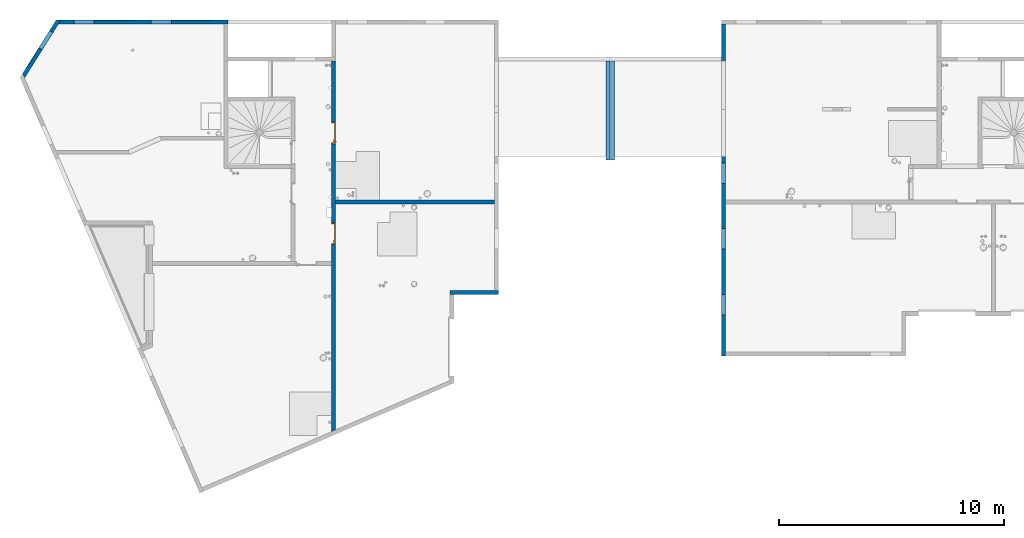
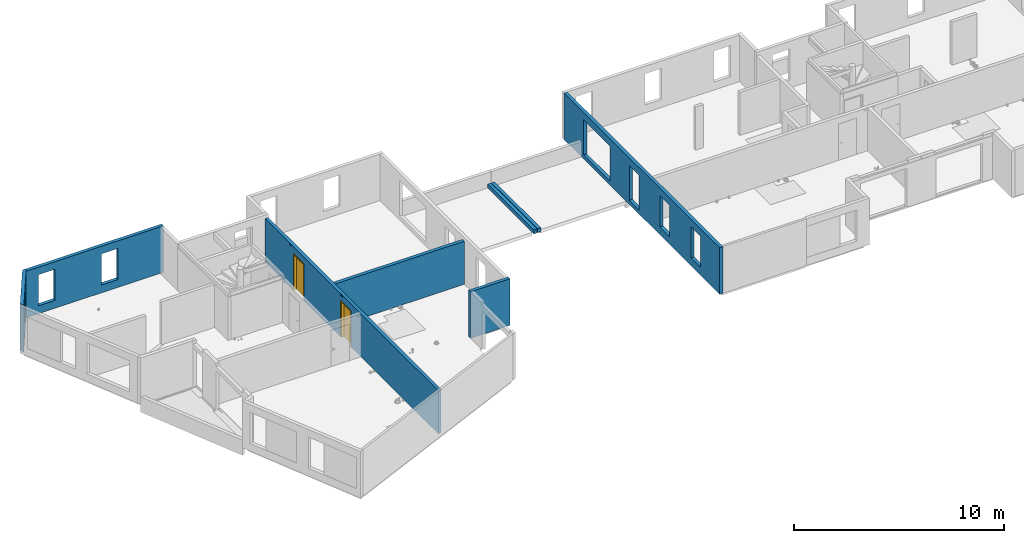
# One storey, part 5 of 24: 8 walls, 2 doors, 14 openings.
"""IFC2X3 building model written with IfcOpenShell, lengths in centimetres."""

from ifc_helpers import new_model, entity, si_unit, converted_unit, derived_unit, direction, frame, frame_2d, origin, origin_2d_with_axis, place, context, subcontext, project, spatial, polyline, rectangle, outline, extrude, faceted_brep, source, transform, mapped, material, material_list, layer, layer_set, layer_usage, type_object, type_shapes, element, fill, save


model = new_model("IFC2X3")

# Units and contexts
model_context = context("Model", 3, precision=0.001, world=origin(), true_north=direction((6.12303176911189e-17, 1.0)))
body_context = subcontext(model_context, "Body", "Model", "MODEL_VIEW")
ifc_project = project(units=[si_unit("LENGTHUNIT", "METRE", prefix="CENTI"), si_unit("AREAUNIT", "SQUARE_METRE"), si_unit("VOLUMEUNIT", "CUBIC_METRE"), converted_unit("PLANEANGLEUNIT", "DEGREE", entity("IfcRatioMeasure", 0.0174532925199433), si_unit("PLANEANGLEUNIT", "RADIAN"), dimensions=[0, 0, 0, 0, 0, 0, 0]), si_unit("MASSUNIT", "GRAM", prefix="KILO"), derived_unit("MASSDENSITYUNIT", [(si_unit("MASSUNIT", "GRAM", prefix="KILO"), 1), (si_unit("LENGTHUNIT", "METRE"), -3)]), si_unit("TIMEUNIT", "SECOND"), si_unit("FREQUENCYUNIT", "HERTZ"), si_unit("THERMODYNAMICTEMPERATUREUNIT", "DEGREE_CELSIUS"), derived_unit("THERMALTRANSMITTANCEUNIT", [(si_unit("MASSUNIT", "GRAM", prefix="KILO"), 1), (si_unit("THERMODYNAMICTEMPERATUREUNIT", "KELVIN"), -1), (si_unit("TIMEUNIT", "SECOND"), -3)]), derived_unit("VOLUMETRICFLOWRATEUNIT", [(si_unit("LENGTHUNIT", "METRE"), 3), (si_unit("TIMEUNIT", "SECOND"), -1)]), si_unit("ELECTRICCURRENTUNIT", "AMPERE"), si_unit("ELECTRICVOLTAGEUNIT", "VOLT"), si_unit("POWERUNIT", "WATT"), si_unit("FORCEUNIT", "NEWTON"), si_unit("ILLUMINANCEUNIT", "LUX"), si_unit("LUMINOUSFLUXUNIT", "LUMEN"), si_unit("LUMINOUSINTENSITYUNIT", "CANDELA"), derived_unit("USERDEFINED", [(si_unit("MASSUNIT", "GRAM", prefix="KILO"), -1), (si_unit("LENGTHUNIT", "METRE"), -2), (si_unit("TIMEUNIT", "SECOND"), 3), (si_unit("LUMINOUSFLUXUNIT", "LUMEN"), 1)]), derived_unit("LINEARVELOCITYUNIT", [(si_unit("LENGTHUNIT", "METRE"), 1), (si_unit("TIMEUNIT", "SECOND"), -1)]), si_unit("PRESSUREUNIT", "PASCAL"), derived_unit("USERDEFINED", [(si_unit("LENGTHUNIT", "METRE"), -2), (si_unit("MASSUNIT", "GRAM", prefix="KILO"), 1), (si_unit("TIMEUNIT", "SECOND"), -2)])], contexts=[model_context])

# Site, building, storey
site_placement = place(None, origin())
site = spatial("IfcSite", under=ifc_project, at=site_placement, Name="Default", CompositionType="ELEMENT")
building_placement = place(site_placement, origin())
building = spatial("IfcBuilding", under=site, at=building_placement, Name="CAGE 03", CompositionType="ELEMENT")
storey_placement = place(building_placement, frame((0.0, 0.0, 880.0)))
storey = spatial("IfcBuildingStorey", under=building, at=storey_placement, Name="R+3", CompositionType="ELEMENT", Elevation=880.0)

# Wall, openings
ifc_material_1 = material(Name="Béton, C25/30")
ifc_layer = layer(ifc_material_1, 18.0)
ifc_layer_set = layer_set([ifc_layer], Name="Mur de base:Voile BA 18")
ifc_layer_usage_1 = layer_usage(ifc_layer_set, "AXIS2", "NEGATIVE", 9.0)
wall_type = type_object("IfcWallType", Name="Mur de base:Voile BA 18", PredefinedType="STANDARD", material=ifc_layer_set)
wall_1_placement = place(storey_placement, frame((2759.68470555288, 5040.14221656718, 0.0), z_axis=(0.0, 0.0, 1.0), x_axis=(0.53179185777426, 0.846875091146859, 0.0)))
wall_1 = element("IfcWallStandardCase", 1, at=wall_1_placement, inside=storey, type_object=wall_type, material=ifc_layer_usage_1, Name="Mur de base:Voile BA 18", ObjectType="Mur de base:Voile BA 18", context=body_context, shape_type="SweptSolid", body=[
    extrude(outline(polyline([(305.009060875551, -9.0), (293.706032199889, 9.0), (12.3599581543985, 9.0), (0.0, -9.0), (283.754450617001, -9.0), (305.009060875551, -9.0)])), origin(), (0.0, 0.0, 1.0), 270.0),
])
opening_1_placement = place(wall_1_placement, origin())
element("IfcOpeningElement", 2, at=opening_1_placement, cuts=wall_1, Name="Mur de base:Voile BA 18", ObjectType="Recess", context=body_context, shape_type="SweptSolid", body=[
    extrude(rectangle(XDim=181.0, YDim=102.0, at=frame_2d((-5.6843418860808e-14, -3.62376795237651e-13), x_axis=(1.0, 0.0))), frame((96.6154798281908, 7.0, 135.499999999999), z_axis=(0.0, 1.0, 0.0), x_axis=(0.0, 0.0, -1.0)), (0.0, 0.0, 1.0), 1.99999999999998),
])
opening_2_placement = place(wall_1_placement, frame((-5735.94875548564, -343.198356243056, 0.0), z_axis=(0.0, 0.0, 1.0), x_axis=(0.53179185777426, -0.846875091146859, 0.0)))
element("IfcOpeningElement", 3, at=opening_2_placement, cuts=wall_1, Name="Mur de base:Voile BA 18", ObjectType="Opening", context=body_context, shape_type="SweptSolid", body=[
    extrude(rectangle(XDim=181.0, YDim=91.0, at=frame_2d((-5.6843418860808e-14, -4.83169060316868e-13), x_axis=(1.0, 0.0))), frame((2983.82383340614, 5127.42795374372, 135.5), z_axis=(-0.846875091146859, 0.53179185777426, 0.0), x_axis=(0.0, 0.0, 1.0)), (0.0, 0.0, 1.0), 304.8),
])

ifc_layer_usage_2 = layer_usage(ifc_layer_set, "AXIS2", "NEGATIVE", 9.0)
wall_2_placement = place(storey_placement, frame((2918.20488781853, 5284.66066607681, 0.0)))
wall_2 = element("IfcWallStandardCase", 4, at=wall_2_placement, inside=storey, type_object=wall_type, material=ifc_layer_usage_2, Name="Mur de base:Voile BA 18", ObjectType="Mur de base:Voile BA 18", context=body_context, shape_type="SweptSolid", body=[
    extrude(outline(polyline([(754.160932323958, -9.0), (754.160932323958, 9.0), (11.3030286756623, 9.0), (0.0, -9.0), (736.160932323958, -9.0), (754.160932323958, -9.0)])), origin(), (0.0, 0.0, 1.0), 270.0),
])
opening_3_placement = place(wall_2_placement, origin())
element("IfcOpeningElement", 5, at=opening_3_placement, cuts=wall_2, Name="Mur de base:Voile BA 18", ObjectType="Recess", context=body_context, shape_type="SweptSolid", body=[
    extrude(rectangle(XDim=181.0, YDim=184.0, at=frame_2d((-5.6843418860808e-14, 0.0), x_axis=(1.0, 0.0))), frame((251.160932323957, 7.0, 135.499999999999), z_axis=(0.0, 1.0, 0.0), x_axis=(0.0, 0.0, -1.0)), (0.0, 0.0, 1.0), 1.99999999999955),
])
opening_4_placement = place(wall_2_placement, origin())
element("IfcOpeningElement", 6, at=opening_4_placement, cuts=wall_2, Name="Mur de base:Voile BA 18", ObjectType="Recess", context=body_context, shape_type="SweptSolid", body=[
    extrude(rectangle(XDim=181.0, YDim=184.0, at=frame_2d((-5.6843418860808e-14, 0.0), x_axis=(1.0, 0.0))), frame((596.160932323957, 7.0, 135.5), z_axis=(0.0, 1.0, 0.0), x_axis=(0.0, 0.0, -1.0)), (0.0, 0.0, 1.0), 1.99999999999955),
])
opening_5_placement = place(wall_2_placement, frame((-2918.20488781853, -5284.66066607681, 0.0)))
element("IfcOpeningElement", 7, at=opening_5_placement, cuts=wall_2, Name="Mur de base:Voile BA 18", ObjectType="Opening", context=body_context, shape_type="SweptSolid", body=[
    extrude(rectangle(XDim=181.0, YDim=91.0000000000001, at=origin_2d_with_axis()), frame((3031.86582014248, 5123.26066607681, 135.5), z_axis=(0.0, 1.0, 0.0), x_axis=(0.0, 0.0, 1.0)), (0.0, 0.0, 1.0), 304.8),
])
opening_6_placement = place(wall_2_placement, frame((-2918.20488781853, -5284.66066607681, 0.0)))
element("IfcOpeningElement", 8, at=opening_6_placement, cuts=wall_2, Name="Mur de base:Voile BA 18", ObjectType="Opening", context=body_context, shape_type="SweptSolid", body=[
    extrude(rectangle(XDim=181.0, YDim=91.0000000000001, at=origin_2d_with_axis()), frame((3376.86582014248, 5123.26066607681, 135.5), z_axis=(0.0, 1.0, 0.0), x_axis=(0.0, 0.0, 1.0)), (0.0, 0.0, 1.0), 304.8),
])

# Wall
ifc_layer_usage_3 = layer_usage(ifc_layer_set, "AXIS2", "POSITIVE", -9.0)
wall_3_placement = place(storey_placement, frame((4662.36582014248, 4081.16066607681, 0.0)))
element("IfcWallStandardCase", 9, at=wall_3_placement, inside=storey, type_object=wall_type, material=ifc_layer_usage_3, Name="Mur de base:Voile BA 18", ObjectType="Mur de base:Voile BA 18", context=body_context, shape_type="SweptSolid", body=[
    extrude(rectangle(XDim=216.0, YDim=17.9999999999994, at=frame_2d((108.0, -7.63833440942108e-14), x_axis=(-1.0, 0.0))), origin(), (0.0, 0.0, 1.0), 270.0),
])

# Wall, openings
ifc_layer_usage_4 = layer_usage(ifc_layer_set, "AXIS2", "POSITIVE", -9.0)
wall_4_placement = place(storey_placement, frame((5879.36582014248, 5275.6606660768, 0.0), z_axis=(0.0, 0.0, 1.0), x_axis=(0.0, -1.0, 0.0)))
wall_4 = element("IfcWallStandardCase", 10, at=wall_4_placement, inside=storey, type_object=wall_type, material=ifc_layer_usage_4, Name="Mur de base:Voile BA 18", ObjectType="Mur de base:Voile BA 18", context=body_context, shape_type="SweptSolid", body=[
    extrude(rectangle(XDim=1479.0, YDim=17.9999999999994, at=frame_2d((739.499999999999, 2.36255459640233e-13), x_axis=(-1.0, 0.0))), origin(), (0.0, 0.0, 1.0), 270.0),
])
opening_7_placement = place(wall_4_placement, frame((5275.6606660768, -5879.36582014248, 0.0), z_axis=(0.0, 0.0, 1.0), x_axis=(0.0, 1.0, 0.0)))
element("IfcOpeningElement", 11, at=opening_7_placement, cuts=wall_4, Name="Mur de base:Voile BA 18", ObjectType="Opening", context=body_context, shape_type="SweptSolid", body=[
    extrude(rectangle(XDim=203.0, YDim=251.0, at=frame_2d((0.0, -1.06581410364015e-13), x_axis=(0.0, 1.0))), frame((5735.96582014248, 4966.1606660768, 124.5), z_axis=(1.0, 0.0, 0.0), x_axis=(0.0, 1.0, 0.0)), (0.0, 0.0, 1.0), 304.8),
])
opening_8_placement = place(wall_4_placement, frame((5275.6606660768, -5879.36582014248, 0.0), z_axis=(0.0, 0.0, 1.0), x_axis=(0.0, 1.0, 0.0)))
element("IfcOpeningElement", 12, at=opening_8_placement, cuts=wall_4, Name="Mur de base:Voile BA 18", ObjectType="Opening", context=body_context, shape_type="SweptSolid", body=[
    extrude(rectangle(XDim=203.0, YDim=91.0000000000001, at=frame_2d((0.0, -1.06581410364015e-13), x_axis=(0.0, 1.0))), frame((5735.96582014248, 4611.1606660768, 124.5), z_axis=(1.0, 0.0, 0.0), x_axis=(0.0, 1.0, 0.0)), (0.0, 0.0, 1.0), 304.8),
])
opening_9_placement = place(wall_4_placement, frame((5275.6606660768, -5879.36582014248, 0.0), z_axis=(0.0, 0.0, 1.0), x_axis=(0.0, 1.0, 0.0)))
element("IfcOpeningElement", 13, at=opening_9_placement, cuts=wall_4, Name="Mur de base:Voile BA 18", ObjectType="Opening", context=body_context, shape_type="SweptSolid", body=[
    extrude(rectangle(XDim=181.0, YDim=91.0000000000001, at=frame_2d((0.0, 1.63424829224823e-13), x_axis=(0.0, 1.0))), frame((5735.96582014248, 4025.16066607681, 135.5), z_axis=(1.0, 0.0, 0.0), x_axis=(0.0, 1.0, 0.0)), (0.0, 0.0, 1.0), 304.8),
])
opening_10_placement = place(wall_4_placement, frame((5275.6606660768, -5879.36582014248, 0.0), z_axis=(0.0, 0.0, 1.0), x_axis=(0.0, 1.0, 0.0)))
element("IfcOpeningElement", 14, at=opening_10_placement, cuts=wall_4, Name="Mur de base:Voile BA 18", ObjectType="Opening", context=body_context, shape_type="SweptSolid", body=[
    extrude(rectangle(XDim=181.0, YDim=91.0000000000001, at=frame_2d((0.0, 1.63424829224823e-13), x_axis=(0.0, 1.0))), frame((5735.96582014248, 4320.1606660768, 135.5), z_axis=(1.0, 0.0, 0.0), x_axis=(0.0, 1.0, 0.0)), (0.0, 0.0, 1.0), 304.8),
])

# Wall
ifc_layer_usage_5 = layer_usage(ifc_layer_set, "AXIS2", "NEGATIVE", 9.0)
wall_5_placement = place(storey_placement, frame((4152.36582014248, 4483.66066607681, 0.0)))
element("IfcWallStandardCase", 15, at=wall_5_placement, inside=storey, type_object=wall_type, material=ifc_layer_usage_5, Name="Mur de base:Voile BA 18", ObjectType="Mur de base:Voile BA 18", context=body_context, shape_type="SweptSolid", body=[
    extrude(rectangle(XDim=708.000000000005, YDim=17.9999999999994, at=frame_2d((354.000000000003, 2.16715534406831e-13), x_axis=(-1.0, 0.0))), origin(), (0.0, 0.0, 1.0), 250.0),
])

# Wall, openings, doors
ifc_layer_usage_6 = layer_usage(ifc_layer_set, "AXIS2", "POSITIVE", -9.0)
wall_6_placement = place(storey_placement, frame((4143.36582014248, 5110.66066607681, 0.0), z_axis=(0.0, 0.0, 1.0), x_axis=(0.0, -1.0, 0.0)))
wall_6 = element("IfcWallStandardCase", 16, at=wall_6_placement, inside=storey, type_object=wall_type, material=ifc_layer_usage_6, Name="Mur de base:Voile BA 18", ObjectType="Mur de base:Voile BA 18", context=body_context, shape_type="SweptSolid", body=[
    extrude(outline(polyline([(0.0, -9.0), (654.499999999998, -9.0), (694.499999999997, -9.0), (892.499999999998, -9.0), (910.499999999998, -9.0), (1649.885805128, -9.0), (1642.09747984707, 9.0), (636.0, 9.0), (618.0, 9.0), (0.0, 9.0), (0.0, -9.0)])), origin(), (0.0, 0.0, 1.0), 250.0),
])
opening_11_placement = place(wall_6_placement, origin())
element("IfcOpeningElement", 17, at=opening_11_placement, cuts=wall_6, Name="Mur de base:Voile BA 18", ObjectType="Opening", context=body_context, shape_type="SweptSolid", body=[
    extrude(rectangle(XDim=10.0000000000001, YDim=19.9999999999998, at=frame_2d((-4.33431068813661e-13, 1.08357767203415e-13), x_axis=(0.0, 1.0))), frame((728.0, -9.0, 242.5), z_axis=(0.0, 1.0, 0.0), x_axis=(1.0, 0.0, 0.0)), (0.0, 0.0, 1.0), 17.9999999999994),
])
opening_12_placement = place(wall_6_placement, origin())
element("IfcOpeningElement", 18, at=opening_12_placement, cuts=wall_6, Name="Mur de base:Voile BA 18", ObjectType="Opening", context=body_context, shape_type="SweptSolid", body=[
    extrude(rectangle(XDim=10.0000000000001, YDim=19.9999999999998, at=frame_2d((-4.33431068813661e-13, 1.08357767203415e-13), x_axis=(0.0, 1.0))), frame((240.0, -9.0, 242.5), z_axis=(0.0, 1.0, 0.0), x_axis=(1.0, 0.0, 0.0)), (0.0, 0.0, 1.0), 17.9999999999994),
])
opening_13_placement = place(wall_6_placement, frame((720.0, -9.0, 0.0)))
opening_13 = element("IfcOpeningElement", 19, at=opening_13_placement, cuts=wall_6, Name="Int. Simple:HB93:1", ObjectType="Opening", context=body_context, shape_type="SweptSolid", body=[
    extrude(rectangle(XDim=210.000000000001, YDim=96.9999999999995, at=frame_2d((105.000000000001, 48.4999999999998), x_axis=(1.0, 0.0))), frame((0.0, 0.0, 0.0), z_axis=(0.0, 1.0, 0.0), x_axis=(0.0, 0.0, 1.0)), (0.0, 0.0, 1.0), 18.0),
])
opening_14_placement = place(wall_6_placement, frame((271.500000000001, -9.0, 0.0)))
opening_14 = element("IfcOpeningElement", 20, at=opening_14_placement, cuts=wall_6, Name="Int. Simple:HB93:1", ObjectType="Opening", context=body_context, shape_type="SweptSolid", body=[
    extrude(rectangle(XDim=210.000000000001, YDim=96.9999999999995, at=frame_2d((105.000000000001, 48.4999999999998), x_axis=(1.0, 0.0))), frame((0.0, 0.0, 0.0), z_axis=(0.0, 1.0, 0.0), x_axis=(0.0, 0.0, 1.0)), (0.0, 0.0, 1.0), 18.0),
])
ifc_material_2 = material(Name="Finition Peinture - Blanc satiné")
ifc_material_3 = material(Name="Bois - Panneau de porte")
ifc_material_4 = material(Name="Bois - Cadre de porte")
ifc_material_list_1 = material_list([ifc_material_2, ifc_material_3, ifc_material_4])
ifc_material_list_2 = material_list([ifc_material_2, ifc_material_3, ifc_material_4])
door_style = type_object("IfcDoorStyle", Name="HB93", ConstructionType="NOTDEFINED", OperationType="SINGLE_SWING_LEFT", ParameterTakesPrecedence=False, Sizeable=False, material=ifc_material_list_2)
shared_shape = source(origin(), body_context, "Body", "Brep", [
    faceted_brep([(10.5352761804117, -0.500000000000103, 86.6003983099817), (11.5000000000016, -0.500000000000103, 87.0), (11.5000000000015, -0.500000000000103, 108.0), (10.5352761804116, -0.500000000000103, 108.399601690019), (9.50000000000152, -0.500000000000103, 108.535898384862), (8.46472381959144, -0.500000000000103, 108.399601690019), (7.50000000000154, -0.500000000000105, 108.0), (7.50000000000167, -0.500000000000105, 87.0), (8.46472381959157, -0.500000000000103, 86.6003983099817), (9.50000000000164, -0.500000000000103, 86.464101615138), (10.5352761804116, 0.0, 108.399601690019), (11.5000000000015, 0.0, 108.0), (11.5000000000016, 0.0, 87.0), (10.5352761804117, 0.0, 86.6003983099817), (9.50000000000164, 0.0, 86.464101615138), (8.46472381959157, 0.0, 86.6003983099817), (7.50000000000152, 0.0, 87.0), (7.50000000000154, 0.0, 108.0), (8.46472381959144, 0.0, 108.399601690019), (9.50000000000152, 0.0, 108.535898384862)], [[[0, 1, 2, 3, 4, 5, 6, 7, 8, 9]], [[10, 11, 12, 13, 14, 15, 16, 17, 18, 19]], [[16, 15, 8, 7]], [[8, 15, 14, 9]], [[14, 13, 0, 9]], [[13, 12, 1, 0]], [[2, 1, 12, 11]], [[11, 10, 3, 2]], [[3, 10, 19, 4]], [[19, 18, 5, 4]], [[18, 17, 6, 5]], [[7, 6, 17, 16]]]),
    faceted_brep([(10.5352761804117, 4.0, 86.6003983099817), (11.5000000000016, 4.0, 87.0), (11.5000000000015, 4.0, 108.0), (10.5352761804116, 4.0, 108.399601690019), (9.50000000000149, 4.0, 108.535898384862), (8.46472381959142, 4.0, 108.399601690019), (7.50000000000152, 4.0, 108.0), (7.50000000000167, 4.0, 87.0), (8.46472381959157, 4.0, 86.6003983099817), (9.50000000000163, 4.0, 86.464101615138), (10.5352761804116, 4.49999999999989, 108.399601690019), (11.5000000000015, 4.4999999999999, 108.0), (11.5000000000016, 4.4999999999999, 87.0), (10.5352761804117, 4.49999999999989, 86.6003983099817), (9.50000000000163, 4.49999999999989, 86.464101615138), (8.46472381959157, 4.49999999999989, 86.6003983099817), (7.50000000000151, 4.49999999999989, 87.0), (7.50000000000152, 4.49999999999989, 108.0), (8.46472381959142, 4.49999999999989, 108.399601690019), (9.50000000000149, 4.49999999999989, 108.535898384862)], [[[0, 1, 2, 3, 4, 5, 6, 7, 8, 9]], [[10, 11, 12, 13, 14, 15, 16, 17, 18, 19]], [[11, 10, 3, 2]], [[3, 10, 19, 4]], [[19, 18, 5, 4]], [[18, 17, 6, 5]], [[7, 6, 17, 16]], [[16, 15, 8, 7]], [[8, 15, 14, 9]], [[14, 13, 0, 9]], [[13, 12, 1, 0]], [[2, 1, 12, 11]]]),
    faceted_brep([(9.29747013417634, -0.500000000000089, 100.778044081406), (9.70252986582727, -0.500000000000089, 100.778044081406), (10.1000000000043, -0.500000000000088, 100.699999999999), (10.1000000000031, -0.500000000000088, 99.3000000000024), (9.70252986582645, -0.500000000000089, 99.2219559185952), (9.29747013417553, -0.500000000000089, 99.221955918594), (8.89999999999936, -0.500000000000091, 99.2999999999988), (8.89999999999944, -0.500000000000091, 100.7), (8.89999999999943, -3.26509507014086, 100.7), (9.29747013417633, -3.10045754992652, 100.778044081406), (10.9023585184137, -4.70534593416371, 100.778044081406), (11.0701397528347, -4.30028620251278, 100.778044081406), (9.70252986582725, -2.93267631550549, 100.778044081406), (10.1000000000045, -2.76803879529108, 100.7), (10.1000000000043, -2.76803879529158, 99.3000000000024), (9.70252986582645, -2.93267631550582, 99.2219559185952), (11.0701397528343, -4.30028620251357, 99.2219559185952), (10.9023585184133, -4.70534593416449, 99.221955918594), (9.29747013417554, -3.10045754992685, 99.221955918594), (8.89999999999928, -3.26509507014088, 99.2999999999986), (10.7377209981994, -5.1028160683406, 100.7), (11.2347772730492, -3.90281606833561, 100.7), (11.2347772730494, -3.90281606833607, 99.3000000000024), (10.7377209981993, -5.10281606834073, 99.2999999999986), (19.5018640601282, -5.1028160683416, 99.2999999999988), (19.5018640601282, -4.70534593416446, 99.221955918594), (19.5018640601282, -4.30028620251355, 99.2219559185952), (19.5018640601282, -3.90281606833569, 99.3000000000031), (19.5018640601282, -3.90281606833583, 100.7), (19.5018640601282, -4.30028620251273, 100.778044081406), (19.5018640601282, -4.70534593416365, 100.778044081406), (19.5018640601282, -5.10281606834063, 100.699999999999), (14.7307697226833, -5.10281606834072, 100.7), (15.28600190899, -4.5028160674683, 100.78786867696), (15.3683206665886, -3.9028160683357, 100.7), (15.3683206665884, -3.90281606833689, 99.3000000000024), (15.2860018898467, -4.50281607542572, 99.2121313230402), (14.7307700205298, -5.10281606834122, 99.2999999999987)], [[[0, 1, 2, 3, 4, 5, 6, 7]], [[8, 9, 0, 7]], [[9, 10, 11, 12, 1, 0]], [[12, 13, 2, 1]], [[3, 2, 13, 14]], [[14, 15, 4, 3]], [[15, 16, 17, 18, 5, 4]], [[18, 19, 6, 5]], [[7, 6, 19, 8]], [[20, 10, 9, 8]], [[11, 21, 13, 12]], [[14, 13, 21, 22]], [[22, 16, 15, 14]], [[17, 23, 19, 18]], [[8, 19, 23, 20]], [[24, 25, 26, 27, 28, 29, 30, 31]], [[32, 30, 33]], [[31, 30, 32]], [[10, 20, 32]], [[33, 34, 11]], [[21, 11, 34]], [[34, 29, 28]], [[30, 29, 33]], [[29, 34, 33]], [[10, 32, 33]], [[10, 33, 11]], [[22, 21, 34, 28, 27, 35]], [[35, 26, 36]], [[37, 36, 25]], [[22, 35, 16]], [[35, 27, 26]], [[24, 37, 25]], [[23, 17, 37]], [[37, 17, 36]], [[17, 16, 36]], [[16, 35, 36]], [[25, 36, 26]], [[20, 23, 37, 24, 31, 32]]]),
    faceted_brep([(9.29747013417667, 4.49999999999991, 100.778044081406), (8.89999999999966, 4.49999999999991, 100.7), (8.89999999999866, 4.49999999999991, 99.2999999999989), (9.2974701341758, 4.49999999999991, 99.221955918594), (9.70252986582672, 4.49999999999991, 99.2219559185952), (10.1000000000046, 4.49999999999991, 99.3000000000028), (10.1000000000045, 4.49999999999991, 100.7), (9.70252986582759, 4.49999999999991, 100.778044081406), (10.1000000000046, 6.7485204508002, 99.3000000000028), (10.1000000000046, 6.74852045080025, 100.7), (9.70252986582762, 6.91315797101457, 100.778044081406), (11.0838906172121, 8.29451872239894, 100.778044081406), (10.9161093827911, 8.69957845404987, 100.778044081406), (9.29747013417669, 7.0809392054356, 100.778044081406), (8.89999999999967, 7.24557672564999, 100.7), (8.89999999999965, 7.24557672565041, 99.2999999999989), (9.29747013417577, 7.08093920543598, 99.221955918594), (10.9161093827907, 8.69957845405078, 99.221955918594), (11.0838906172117, 8.29451872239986, 99.2219559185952), (9.7025298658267, 6.91315797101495, 99.2219559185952), (11.2485281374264, 7.89704858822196, 99.3000000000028), (11.2485281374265, 7.89704858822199, 100.7), (10.7514718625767, 9.0970485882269, 100.7), (10.751471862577, 9.0970485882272, 99.2999999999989), (19.504578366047, 7.89704858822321, 99.3000000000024), (19.504578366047, 8.29451872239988, 99.2219559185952), (19.504578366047, 8.6995784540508, 99.221955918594), (19.504578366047, 9.09704858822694, 99.2999999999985), (19.504578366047, 9.09704858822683, 100.7), (19.504578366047, 8.69957845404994, 100.778044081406), (19.504578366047, 8.29451872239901, 100.778044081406), (19.504578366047, 7.89704858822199, 100.7), (15.3765520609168, 7.89704858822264, 99.3000000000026), (15.3765532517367, 7.89704858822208, 100.7), (15.294234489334, 8.49704858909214, 100.78786867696), (14.7445205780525, 9.09704858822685, 100.7), (14.7445204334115, 9.09704858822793, 99.2999999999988), (15.2942345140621, 8.49704858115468, 99.2121313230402)], [[[0, 1, 2, 3, 4, 5, 6, 7]], [[6, 5, 8, 9]], [[9, 10, 7, 6]], [[10, 11, 12, 13, 0, 7]], [[13, 14, 1, 0]], [[2, 1, 14, 15]], [[15, 16, 3, 2]], [[16, 17, 18, 19, 4, 3]], [[19, 8, 5, 4]], [[9, 8, 20, 21]], [[21, 11, 10, 9]], [[12, 22, 14, 13]], [[15, 14, 22, 23]], [[23, 17, 16, 15]], [[18, 20, 8, 19]], [[24, 25, 26, 27, 28, 29, 30, 31]], [[21, 20, 32, 24, 31, 33]], [[33, 30, 34]], [[35, 34, 29]], [[21, 33, 11]], [[33, 31, 30]], [[28, 35, 29]], [[22, 12, 35]], [[35, 12, 34]], [[12, 11, 34]], [[11, 33, 34]], [[29, 34, 30]], [[22, 35, 28, 27, 36, 23]], [[36, 26, 37]], [[27, 26, 36]], [[17, 23, 36]], [[37, 32, 18]], [[20, 18, 32]], [[32, 25, 24]], [[26, 25, 37]], [[25, 32, 37]], [[17, 36, 37]], [[17, 37, 18]]]),
    faceted_brep([(3.50000000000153, 4.0, 206.5), (93.5000000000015, 4.0, 206.5), (93.5000000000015, 4.0, 0.0), (3.50000000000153, 4.0, 0.0), (3.50000000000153, 0.0, 206.5), (3.50000000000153, 0.0, 0.0), (93.5000000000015, 0.0, 0.0), (93.5000000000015, 0.0, 206.5)], [[[0, 1, 2, 3]], [[4, 5, 6, 7]], [[1, 0, 4, 7]], [[2, 1, 7, 6]], [[3, 2, 6, 5]], [[0, 3, 5, 4]]]),
    faceted_brep([(0.0, 0.0, 0.0), (0.0, 18.0, 0.0), (5.0, 18.0, 0.0), (5.0, 4.0, 0.0), (3.50000000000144, 4.0, 0.0), (3.50000000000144, 0.0, 0.0), (0.0, 0.0, 210.0), (0.0, 18.0, 210.0), (97.0, 18.0, 210.0), (97.0, 18.0, 0.0), (92.0, 18.0, 0.0), (92.0, 18.0, 205.0), (5.0, 18.0, 205.0), (5.0, 4.0, 205.0), (92.0, 4.0, 205.0), (92.0, 4.0, 0.0), (93.4999999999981, 4.0, 0.0), (93.4999999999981, 4.0, 206.5), (3.50000000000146, 4.0, 206.5), (3.50000000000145, 0.0, 206.5), (93.4999999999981, 0.0, 206.5), (93.4999999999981, 0.0, 0.0), (97.0, 0.0, 0.0), (97.0, 0.0, 210.0)], [[[0, 1, 2, 3, 4, 5]], [[1, 0, 6, 7]], [[2, 1, 7, 8, 9, 10, 11, 12]], [[3, 2, 12, 13]], [[4, 3, 13, 14, 15, 16, 17, 18]], [[5, 4, 18, 19]], [[0, 5, 19, 20, 21, 22, 23, 6]], [[8, 23, 22, 9]], [[22, 21, 16, 15, 10, 9]], [[14, 11, 10, 15]], [[20, 17, 16, 21]], [[7, 6, 23, 8]], [[13, 12, 11, 14]], [[19, 18, 17, 20]]]),
    faceted_brep([(1.5, 18.0, 0.0), (-1.49999999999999, 18.0, 0.0), (-1.49999999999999, 18.5000000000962, 0.0), (1.5, 18.5000000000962, 0.0), (1.5, 18.0, 208.500000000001), (95.4999999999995, 18.0, 208.500000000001), (95.4999999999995, 18.0, 0.0), (98.4999999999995, 18.0, 0.0), (98.4999999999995, 18.0, 211.500000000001), (-1.49999999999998, 18.0, 211.500000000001), (-1.49999999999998, 18.5000000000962, 211.500000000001), (98.4999999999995, 18.5000000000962, 211.500000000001), (98.4999999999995, 18.5000000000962, 0.0), (95.4999999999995, 18.5000000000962, 0.0), (95.4999999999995, 18.5000000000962, 208.500000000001), (1.50000000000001, 18.5000000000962, 208.500000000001)], [[[0, 1, 2, 3]], [[1, 0, 4, 5, 6, 7, 8, 9]], [[2, 1, 9, 10]], [[3, 2, 10, 11, 12, 13, 14, 15]], [[0, 3, 15, 4]], [[6, 13, 12, 7]], [[5, 14, 13, 6]], [[11, 8, 7, 12]], [[10, 9, 8, 11]], [[4, 15, 14, 5]]]),
    faceted_brep([(-1.49999999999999, -0.5, 0.0), (1.5, -0.5, 0.0), (1.5, -0.5, 208.500000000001), (95.4999999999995, -0.5, 208.500000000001), (95.4999999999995, -0.5, 0.0), (98.4999999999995, -0.5, 0.0), (98.4999999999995, -0.5, 211.500000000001), (-1.49999999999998, -0.5, 211.500000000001), (-1.49999999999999, 0.0, 0.0), (-1.49999999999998, 0.0, 211.500000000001), (1.5, 0.0, 0.0), (98.4999999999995, 0.0, 211.500000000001), (98.4999999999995, 0.0, 0.0), (95.4999999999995, 0.0, 0.0), (95.4999999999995, 0.0, 208.500000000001), (1.50000000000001, 0.0, 208.500000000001)], [[[0, 1, 2, 3, 4, 5, 6, 7]], [[8, 0, 7, 9]], [[10, 8, 9, 11, 12, 13, 14, 15]], [[1, 10, 15, 2]], [[3, 14, 13, 4]], [[11, 6, 5, 12]], [[9, 7, 6, 11]], [[2, 15, 14, 3]], [[4, 13, 12, 5]], [[1, 0, 8, 10]]]),
])
type_shapes(door_style, [shared_shape])
door_1_placement = place(opening_13_placement, frame((97.0, 18.0, 0.0), z_axis=(0.0, 0.0, 1.0), x_axis=(-1.0, 0.0, 0.0)))
door_1 = element("IfcDoor", 21, at=door_1_placement, inside=storey, type_object=door_style, material=ifc_material_list_1, Name="Int. Simple:HB93", ObjectType="HB93", OverallHeight=210.000000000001, OverallWidth=96.9999999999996, context=body_context, shape_type="MappedRepresentation", body=[
    mapped(shared_shape, transform((0.0, 0.0, 0.0), scale=1.0)),
])
fill(opening_13, door_1)
ifc_material_list_3 = material_list([ifc_material_2, ifc_material_3, ifc_material_4])
door_2_placement = place(opening_14_placement, frame((97.0, 18.0, 0.0), z_axis=(0.0, 0.0, 1.0), x_axis=(-1.0, 0.0, 0.0)))
door_2 = element("IfcDoor", 22, at=door_2_placement, inside=storey, type_object=door_style, material=ifc_material_list_3, Name="Int. Simple:HB93", ObjectType="HB93", OverallHeight=210.000000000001, OverallWidth=96.9999999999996, context=body_context, shape_type="MappedRepresentation", body=[
    mapped(shared_shape, transform((0.0, 0.0, 0.0), scale=1.0)),
])
fill(opening_14, door_2)

# Walls
ifc_layer_usage_7 = layer_usage(ifc_layer_set, "AXIS2", "NEGATIVE", 9.0)
wall_7_placement = place(storey_placement, frame((5364.36582014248, 5110.66066607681, 0.0), z_axis=(0.0, 0.0, 1.0), x_axis=(0.0, -1.0, 0.0)))
element("IfcWallStandardCase", 23, at=wall_7_placement, inside=storey, type_object=wall_type, material=ifc_layer_usage_7, Name="Mur de base:Voile BA 18", ObjectType="Mur de base:Voile BA 18", context=body_context, shape_type="SweptSolid", body=[
    extrude(rectangle(XDim=440.0, YDim=17.9999999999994, at=frame_2d((220.0, -9.59232693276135e-14), x_axis=(-1.0, 0.0))), origin(), (0.0, 0.0, 1.0), 22.9999999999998),
])
ifc_layer_usage_8 = layer_usage(ifc_layer_set, "AXIS2", "NEGATIVE", 9.0)
wall_8_placement = place(storey_placement, frame((5384.36582014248, 4670.66066607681, 0.0), z_axis=(0.0, 0.0, 1.0), x_axis=(0.0, 1.0, 0.0)))
element("IfcWallStandardCase", 24, at=wall_8_placement, inside=storey, type_object=wall_type, material=ifc_layer_usage_8, Name="Mur de base:Voile BA 18", ObjectType="Mur de base:Voile BA 18", context=body_context, shape_type="SweptSolid", body=[
    extrude(rectangle(XDim=440.000000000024, YDim=17.9999999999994, at=frame_2d((220.000000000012, -9.59232693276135e-14), x_axis=(-1.0, 0.0))), origin(), (0.0, 0.0, 1.0), 22.9999999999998),
])

save(model, "model.ifc")
